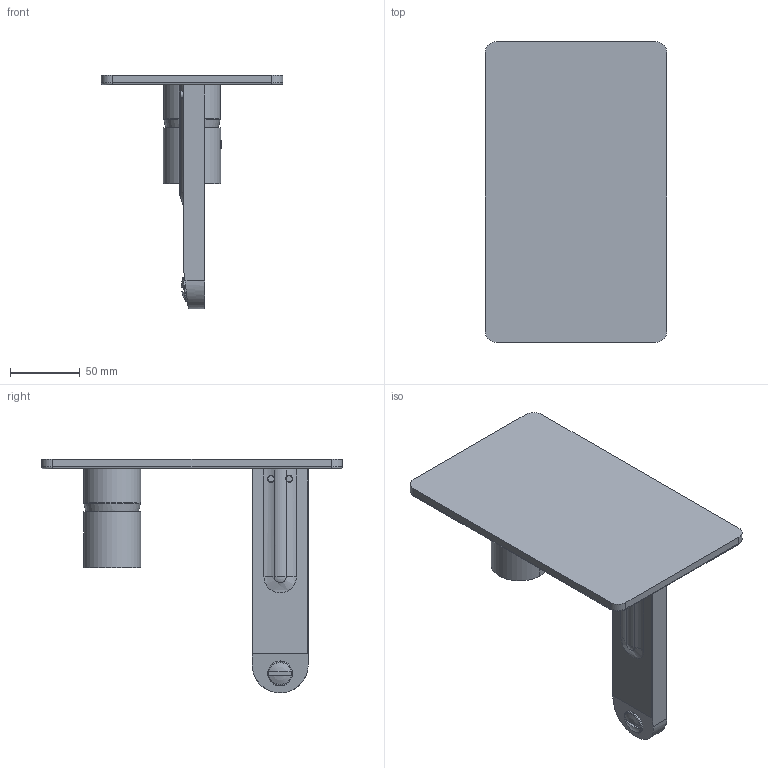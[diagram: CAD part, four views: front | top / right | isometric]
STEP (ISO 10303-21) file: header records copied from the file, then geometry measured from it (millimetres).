
FILE_DESCRIPTION((''),'2;1');
FILE_NAME('F4201X5_FILE_3D','2013-11-20T',('ivanv'),(''),'PRO/ENGINEER BY PARAMETRIC TECHNOLOGY CORPORATION, 2012130','PRO/ENGINEER BY PARAMETRIC TECHNOLOGY CORPORATION, 2012130','');
FILE_SCHEMA(('CONFIG_CONTROL_DESIGN'));
Length unit declared in the file: millimetre
Products named in the file (1): F4201X5_FILE_3D
Bounding box: 130 x 215 x 167 mm (x, y, z)
Volume: 351513.8 mm3; surface area: 91781.1 mm2
Topology: 1 solids, 2 shells, 95 faces, 225 edges, 140 vertices
Faces by surface type: cylinder 34, plane 30, cone 12, torus 9, sphere 7, bspline 3
Entity records: 3207 total; most frequent: CARTESIAN_POINT 976, DIRECTION 480, ORIENTED_EDGE 442, EDGE_CURVE 221, AXIS2_PLACEMENT_3D 198, VERTEX_POINT 140, CIRCLE 106, EDGE_LOOP 105
